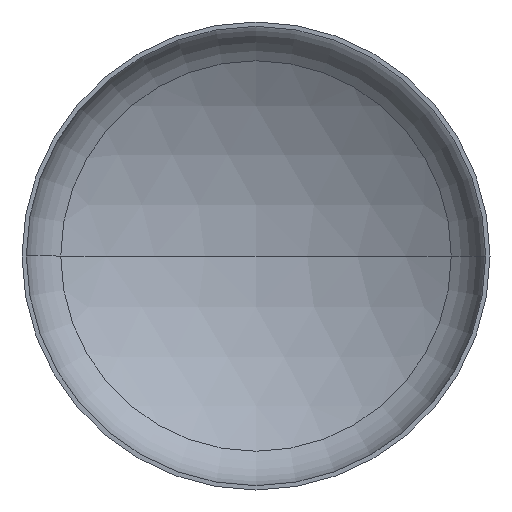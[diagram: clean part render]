
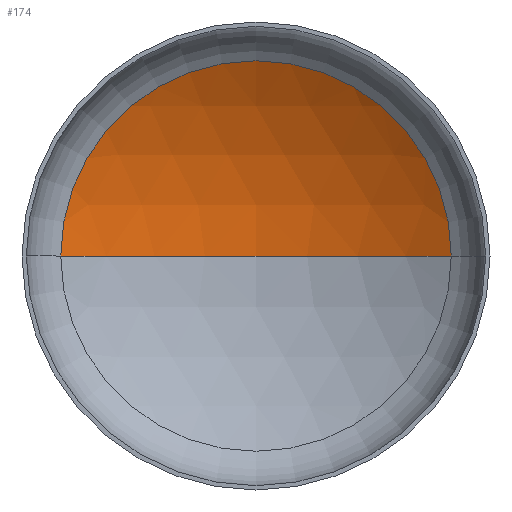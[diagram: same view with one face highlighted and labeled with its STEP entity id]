
A CAD part, front view. The second image highlights one B-rep face of the part: STEP entity #174.
In plain terms, the highlighted spherical face has radius 2240 mm.
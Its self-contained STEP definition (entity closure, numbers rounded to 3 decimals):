
#14 = AXIS2_PLACEMENT_3D ( 'NONE', #161, #363, #191 ) ;
#23 = DIRECTION ( 'NONE',  ( 1., 0., 0. ) ) ;
#28 = DIRECTION ( 'NONE',  ( 0., -1., 0. ) ) ;
#29 = CARTESIAN_POINT ( 'NONE',  ( 0., 451.886, 0. ) ) ;
#42 = AXIS2_PLACEMENT_3D ( 'NONE', #53, #62, #289 ) ;
#53 = CARTESIAN_POINT ( 'NONE',  ( 0., -1459.333, 0. ) ) ;
#54 = AXIS2_PLACEMENT_3D ( 'NONE', #96, #88, #81 ) ;
#57 = AXIS2_PLACEMENT_3D ( 'NONE', #29, #28, #23 ) ;
#60 = SPHERICAL_SURFACE ( 'NONE', #42, 2240. ) ;
#62 = DIRECTION ( 'NONE',  ( 0., 0., -1. ) ) ;
#65 = CARTESIAN_POINT ( 'NONE',  ( 0., 780.667, 0. ) ) ;
#81 = DIRECTION ( 'NONE',  ( -1., 0., 0. ) ) ;
#88 = DIRECTION ( 'NONE',  ( 0., 0., -1. ) ) ;
#96 = CARTESIAN_POINT ( 'NONE',  ( 0., -1459.333, 0. ) ) ;
#131 = EDGE_CURVE ( 'NONE', #219, #276, #388, .T. ) ;
#134 = EDGE_CURVE ( 'NONE', #242, #219, #238, .T. ) ;
#144 = ORIENTED_EDGE ( 'NONE', *, *, #359, .F. ) ;
#161 = CARTESIAN_POINT ( 'NONE',  ( 0., -1459.333, 0. ) ) ;
#173 = ORIENTED_EDGE ( 'NONE', *, *, #134, .T. ) ;
#174 = ADVANCED_FACE ( 'NONE', ( #384 ), #60, .F. ) ;
#191 = DIRECTION ( 'NONE',  ( 1., 0., 0. ) ) ;
#213 = CIRCLE ( 'NONE', #14, 2240. ) ;
#219 = VERTEX_POINT ( 'NONE', #321 ) ;
#222 = EDGE_LOOP ( 'NONE', ( #144, #173, #270 ) ) ;
#238 = CIRCLE ( 'NONE', #54, 2240. ) ;
#242 = VERTEX_POINT ( 'NONE', #65 ) ;
#270 = ORIENTED_EDGE ( 'NONE', *, *, #131, .T. ) ;
#276 = VERTEX_POINT ( 'NONE', #349 ) ;
#289 = DIRECTION ( 'NONE',  ( -1., 0., 0. ) ) ;
#321 = CARTESIAN_POINT ( 'NONE',  ( 1168.265, 451.886, 0. ) ) ;
#349 = CARTESIAN_POINT ( 'NONE',  ( -1168.265, 451.886, 0. ) ) ;
#359 = EDGE_CURVE ( 'NONE', #242, #276, #213, .T. ) ;
#363 = DIRECTION ( 'NONE',  ( 0., 0., 1. ) ) ;
#384 = FACE_OUTER_BOUND ( 'NONE', #222, .T. ) ;
#388 = CIRCLE ( 'NONE', #57, 1168.265 ) ;
